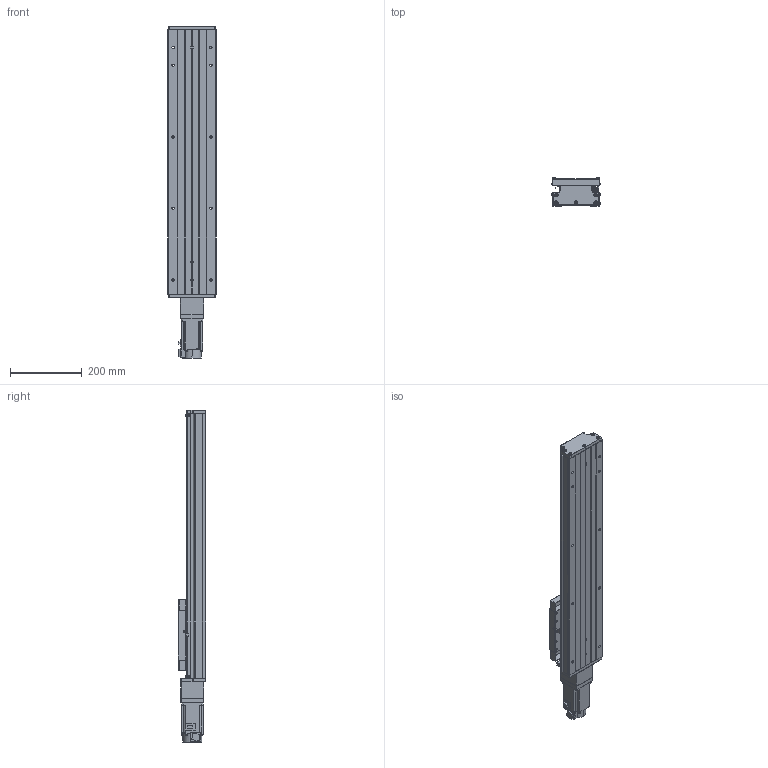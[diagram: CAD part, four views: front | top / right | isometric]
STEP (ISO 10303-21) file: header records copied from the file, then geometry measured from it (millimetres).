
FILE_DESCRIPTION (( 'STEP AP203' ), '1' );
FILE_NAME ('GTH14-500-BC-M40-C4.step', '2023-06-30T08:34:24', ( '微软用户' ), ( '微软中国' ), 'SwSTEP 2.0', 'SolidWorks 2020', '' );
FILE_SCHEMA (( 'CONFIG_CONTROL_DESIGN' ));
Length unit declared in the file: millimetre
Products named in the file (20): GB1155-6X6; GBT77-2000 M3×3; GBT 70.3-M3℅8; GBT70.1 M5℅16; GTH14-031; GTH14-500-BC-M40-C4; GBT 70.2-M3¡Á5_M3¡Á6; す晦芛蹟隊 M3℅5; GTH14-001_500; CTHA60-017; CTHA86-006-1_M40; GTH14-002_GTH14-002; EE_SX911P_R; CTHA86-013; GTH14-004; CTHA60-016; CTHA86-027-1; GTH14-005; GBT 70.1-M3℅5; HG-KN43J-S100
Assembly tree (57 placements, depth 2):
  GTH14-500-BC-M40-C4
    GTH14-001_500
    GTH14-002_GTH14-002
    GTH14-004
    GTH14-005
    GB1155-6X6  x2
    GBT70.1 M5℅16  x10
    GBT 70.2-M3¡Á5_M3¡Á6  x8
    CTHA60-017  x3
    EE_SX911P_R  x3
    CTHA60-016  x2
    GBT 70.1-M3℅5  x6
    GBT77-2000 M3×3  x6
    GTH14-031
    す晦芛蹟隊 M3℅5  x6
    CTHA86-006-1_M40
    CTHA86-013
    CTHA86-027-1
    HG-KN43J-S100
    GBT 70.3-M3℅8  x2
Bounding box: 135 x 78 x 928.7 mm (x, y, z)
Volume: 4648574.5 mm3; surface area: 755524.1 mm2
Topology: 60 solids, 60 shells, 2414 faces, 5757 edges, 3554 vertices
Faces by surface type: plane 1302, cylinder 648, cone 304, torus 120, sphere 20, bspline 20
Entity records: 44420 total; most frequent: CARTESIAN_POINT 9897, DIRECTION 6516, ORIENTED_EDGE 6398, EDGE_CURVE 3199, AXIS2_PLACEMENT_3D 2217, LINE 2082, VECTOR 2082, VERTEX_POINT 2022
